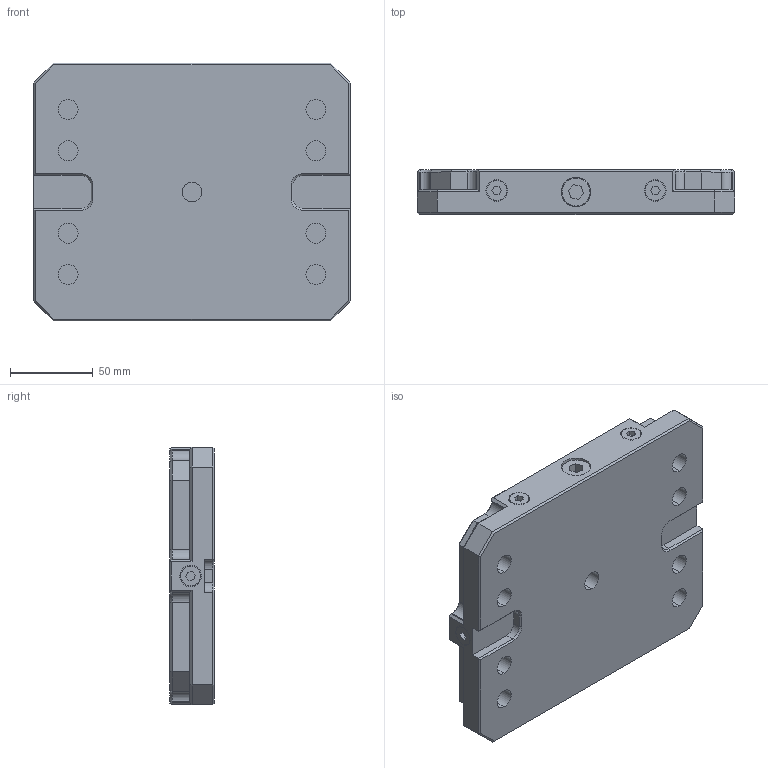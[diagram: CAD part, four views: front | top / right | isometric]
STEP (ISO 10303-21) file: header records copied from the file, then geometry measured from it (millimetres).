
FILE_DESCRIPTION (( 'STEP AP214' ), '1' );
FILE_NAME ('45400.STEP', '2022-06-14T06:52:43', ( '' ), ( '' ), 'SwSTEP 2.0', 'SolidWorks 2021', '' );
FILE_SCHEMA (( 'AUTOMOTIVE_DESIGN' ));
Length unit declared in the file: millimetre
Products named in the file (1): 45400
Bounding box: 192 x 27 x 156 mm (x, y, z)
Volume: 636872 mm3; surface area: 119247.2 mm2
Topology: 16 solids, 16 shells, 421 faces, 980 edges, 603 vertices
Faces by surface type: plane 205, cylinder 144, cone 64, torus 8
Entity records: 17420 total; most frequent: CARTESIAN_POINT 2883, DIRECTION 2070, ORIENTED_EDGE 1944, EDGE_CURVE 972, AXIS2_PLACEMENT_3D 738, VERTEX_POINT 603, VECTOR 594, LINE 594
